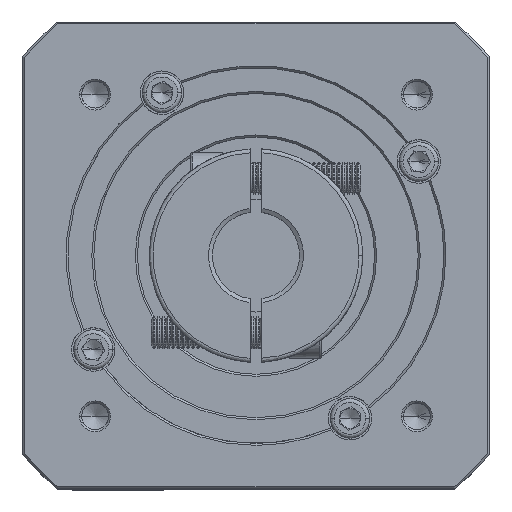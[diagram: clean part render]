
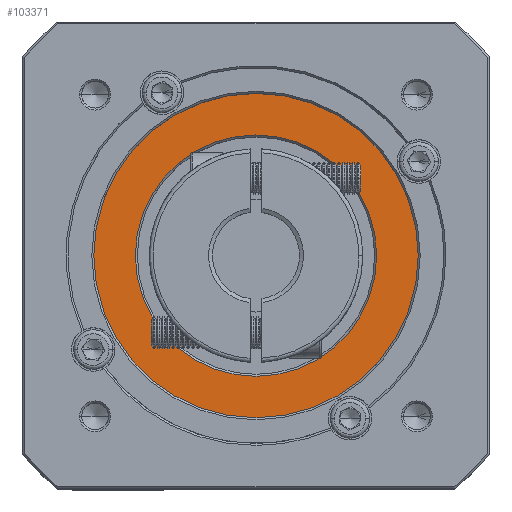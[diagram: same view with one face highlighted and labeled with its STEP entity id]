
A CAD part, top view. The second image highlights one B-rep face of the part: STEP entity #103371.
In plain terms, the highlighted planar face has unit normal (0, 0, 1).
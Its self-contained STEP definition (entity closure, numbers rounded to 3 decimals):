
#1469 = ORIENTED_EDGE ( 'NONE', *, *, #63619, .T. ) ;
#1705 = ORIENTED_EDGE ( 'NONE', *, *, #73917, .T. ) ;
#2389 = CARTESIAN_POINT ( 'NONE',  ( 71.341, 116.278, -3.077 ) ) ;
#5008 = VERTEX_POINT ( 'NONE', #80187 ) ;
#9098 = CARTESIAN_POINT ( 'NONE',  ( 40.841, 116.278, -3.077 ) ) ;
#9675 = ORIENTED_EDGE ( 'NONE', *, *, #54485, .T. ) ;
#9997 = DIRECTION ( 'NONE',  ( 1., 0., 0. ) ) ;
#18130 = DIRECTION ( 'NONE',  ( 1., 0., 0. ) ) ;
#19480 = DIRECTION ( 'NONE',  ( 1., 0., 0. ) ) ;
#26645 = DIRECTION ( 'NONE',  ( 0., 0., 1. ) ) ;
#27093 = CIRCLE ( 'NONE', #36074, 30.5 ) ;
#29589 = AXIS2_PLACEMENT_3D ( 'NONE', #75696, #94665, #100960 ) ;
#31079 = VERTEX_POINT ( 'NONE', #83553 ) ;
#35379 = CARTESIAN_POINT ( 'NONE',  ( 10.341, 116.278, -3.077 ) ) ;
#35751 = PLANE ( 'NONE',  #55920 ) ;
#36074 = AXIS2_PLACEMENT_3D ( 'NONE', #102776, #52192, #9997 ) ;
#39855 = EDGE_LOOP ( 'NONE', ( #9675, #1705 ) ) ;
#50318 = CIRCLE ( 'NONE', #67698, 41. ) ;
#50950 = DIRECTION ( 'NONE',  ( 0., 0., 1. ) ) ;
#52192 = DIRECTION ( 'NONE',  ( 0., 0., -1. ) ) ;
#53880 = CIRCLE ( 'NONE', #59560, 41. ) ;
#54485 = EDGE_CURVE ( 'NONE', #31079, #5008, #53880, .T. ) ;
#55920 = AXIS2_PLACEMENT_3D ( 'NONE', #70954, #61669, #19480 ) ;
#56687 = CIRCLE ( 'NONE', #29589, 30.5 ) ;
#59560 = AXIS2_PLACEMENT_3D ( 'NONE', #9098, #50950, #93300 ) ;
#61669 = DIRECTION ( 'NONE',  ( 0., 0., 1. ) ) ;
#63619 = EDGE_CURVE ( 'NONE', #103192, #86863, #56687, .T. ) ;
#67698 = AXIS2_PLACEMENT_3D ( 'NONE', #103478, #26645, #18130 ) ;
#70954 = CARTESIAN_POINT ( 'NONE',  ( 40.841, 116.278, -3.077 ) ) ;
#73713 = ORIENTED_EDGE ( 'NONE', *, *, #88001, .T. ) ;
#73917 = EDGE_CURVE ( 'NONE', #5008, #31079, #50318, .T. ) ;
#75696 = CARTESIAN_POINT ( 'NONE',  ( 40.841, 116.278, -3.077 ) ) ;
#80187 = CARTESIAN_POINT ( 'NONE',  ( -0.159, 116.278, -3.077 ) ) ;
#83553 = CARTESIAN_POINT ( 'NONE',  ( 81.841, 116.278, -3.077 ) ) ;
#85765 = EDGE_LOOP ( 'NONE', ( #73713, #1469 ) ) ;
#86863 = VERTEX_POINT ( 'NONE', #2389 ) ;
#87710 = FACE_BOUND ( 'NONE', #85765, .T. ) ;
#88001 = EDGE_CURVE ( 'NONE', #86863, #103192, #27093, .T. ) ;
#93300 = DIRECTION ( 'NONE',  ( 1., 0., 0. ) ) ;
#94665 = DIRECTION ( 'NONE',  ( 0., 0., -1. ) ) ;
#98391 = FACE_OUTER_BOUND ( 'NONE', #39855, .T. ) ;
#100960 = DIRECTION ( 'NONE',  ( 1., 0., 0. ) ) ;
#102776 = CARTESIAN_POINT ( 'NONE',  ( 40.841, 116.278, -3.077 ) ) ;
#103192 = VERTEX_POINT ( 'NONE', #35379 ) ;
#103371 = ADVANCED_FACE ( 'NONE', ( #98391, #87710 ), #35751, .T. ) ;
#103478 = CARTESIAN_POINT ( 'NONE',  ( 40.841, 116.278, -3.077 ) ) ;
